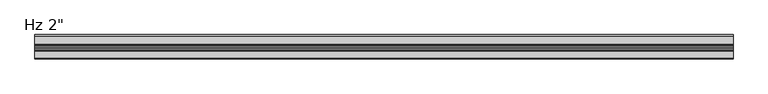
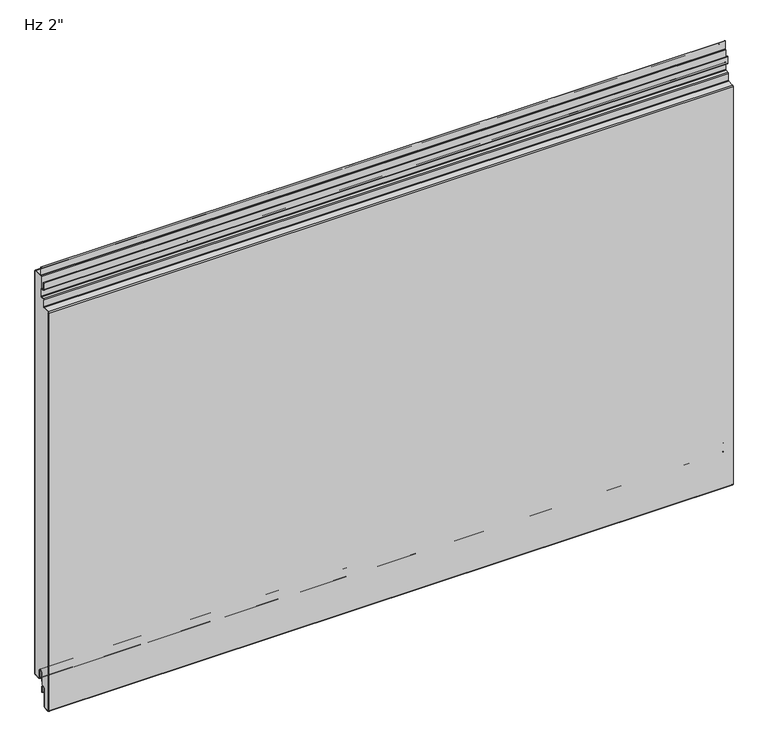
"""IFC4 building model written with IfcOpenShell, lengths in millimetres: plate geometry."""

from ifc_helpers import new_model, si_unit, point, frame, frame_2d, origin, place, context, project, spatial, polyline, circle_curve, ellipse_curve, trimmed, segment, composite_curve, outline, extrude, source, transform, mapped, element, save
from ifc_brep_helpers import plane_surface, cylinder_surface, revolved_surface, extruded_surface, advanced_brep


def plate_6fed119e(model_context):
    return source(origin(), model_context, "Body", "SolidModel", [
        extrude(outline(composite_curve([segment(polyline([(-22.8125, 869.3620957), (-22.8125, 912.60625), (-2.38125, 912.60625)]), True, "CONTINUOUS"), segment(trimmed(circle_curve(frame_2d((-2.38125, 911.225)), 1.38125), [point((-2.38125, 912.60625))], [point((-1.0, 911.225))], False, "CARTESIAN"), True, "CONTINUOUS"), segment(polyline([(-1.0, 911.225), (-1.0, 3.175)]), True, "CONTINUOUS"), segment(trimmed(circle_curve(frame_2d((-2.38125, 3.175)), 1.38125), [point((-1.0, 3.175))], [point((-2.38125, 1.79375))], False, "CARTESIAN"), True, "CONTINUOUS"), segment(polyline([(-2.38125, 1.79375), (-15.08125, 1.79375)]), True, "CONTINUOUS"), segment(trimmed(circle_curve(frame_2d((-15.08125, 3.175)), 1.38125), [point((-15.08125, 1.79375))], [point((-16.4625, 3.175))], False, "CARTESIAN"), True, "CONTINUOUS"), segment(polyline([(-16.4625, 3.175), (-16.4625, 19.05)]), True, "CONTINUOUS"), segment(trimmed(circle_curve(frame_2d((-21.43125, 19.05)), 4.96875), [point((-16.4625, 19.05))], [point((-26.4, 19.05))], True, "CARTESIAN"), True, "CONTINUOUS"), segment(polyline([(-26.4, 19.05), (-26.4, -6.9375), (-30.95625, -6.9375)]), True, "CONTINUOUS"), segment(trimmed(circle_curve(frame_2d((-30.95625, -11.90625)), 4.96875), [point((-30.95625, -6.9375))], [point((-35.925, -11.90625))], True, "CARTESIAN"), True, "CONTINUOUS"), segment(polyline([(-35.925, -11.90625), (-35.925, -50.0895546)]), True, "CONTINUOUS"), segment(trimmed(circle_curve(frame_2d((-37.30625, -50.0895546)), 1.38125), [point((-35.925, -50.0895546))], [point((-37.233961, -51.4689117))], False, "CARTESIAN"), True, "CONTINUOUS"), segment(polyline([(-37.233961, -51.4689117), (-48.346461, -52.0512931)]), True, "CONTINUOUS"), segment(trimmed(circle_curve(frame_2d((-48.41875, -50.6719361)), 1.38125), [point((-48.346461, -52.0512931))], [point((-49.8, -50.6719361))], False, "CARTESIAN"), True, "CONTINUOUS"), segment(polyline([(-49.8, -50.6719361), (-49.8, 846.2447607)]), True, "CONTINUOUS"), segment(trimmed(circle_curve(frame_2d((-48.41875, 846.2447607)), 1.38125), [point((-49.8, 846.2447607))], [point((-48.491039, 847.6241177))], False, "CARTESIAN"), True, "CONTINUOUS"), segment(polyline([(-48.491039, 847.6241177), (-34.7895807, 848.3421807)]), True, "CONTINUOUS"), segment(trimmed(circle_curve(frame_2d((-34.925, 850.9261347)), 2.5875), [point((-34.7895807, 848.3421807))], [point((-32.3375, 850.9261347))], True, "CARTESIAN"), True, "CONTINUOUS"), segment(polyline([(-32.3375, 850.9261347), (-32.3375, 865.0967085)]), True, "CONTINUOUS"), segment(trimmed(circle_curve(frame_2d((-30.95625, 865.0967085)), 1.38125), [point((-32.3375, 865.0967085))], [point((-31.028539, 866.4760655))], False, "CARTESIAN"), True, "CONTINUOUS"), segment(polyline([(-31.028539, 866.4760655), (-25.2645807, 866.7781418)]), True, "CONTINUOUS"), segment(trimmed(circle_curve(frame_2d((-25.4, 869.3620957)), 2.5875), [point((-25.2645807, 866.7781418))], [point((-22.8125, 869.3620957))], True, "CARTESIAN"), True, "CONTINUOUS")], self_intersect=False)), frame((-730.0, 0.0, 0.0), z_axis=(1.0, 0.0, 0.0), x_axis=(0.0, 1.0, 0.0)), (0.0, 0.0, 1.0), 1460.0),
        extrude(outline(composite_curve([segment(polyline([(-25.4, 0.79375), (-26.4, 0.79375), (-26.4, 19.05)]), True, "CONTINUOUS"), segment(trimmed(circle_curve(frame_2d((-21.43125, 19.05)), 4.96875), [point((-26.4, 19.05))], [point((-16.4625, 19.05))], False, "CARTESIAN"), True, "CONTINUOUS"), segment(polyline([(-16.4625, 19.05), (-16.4625, 3.175)]), True, "CONTINUOUS"), segment(trimmed(circle_curve(frame_2d((-15.08125, 3.175)), 1.38125), [point((-16.4625, 3.175))], [point((-15.08125, 1.79375))], True, "CARTESIAN"), True, "CONTINUOUS"), segment(polyline([(-15.08125, 1.79375), (-2.38125, 1.79375)]), True, "CONTINUOUS"), segment(trimmed(circle_curve(frame_2d((-2.38125, 3.175)), 1.38125), [point((-2.38125, 1.79375))], [point((-1.0, 3.175))], True, "CARTESIAN"), True, "CONTINUOUS"), segment(polyline([(-1.0, 3.175), (-1.0, 911.225)]), True, "CONTINUOUS"), segment(trimmed(circle_curve(frame_2d((-2.38125, 911.225)), 1.38125), [point((-1.0, 911.225))], [point((-2.38125, 912.60625))], True, "CARTESIAN"), True, "CONTINUOUS"), segment(polyline([(-2.38125, 912.60625), (-19.446875, 912.60625)]), True, "CONTINUOUS"), segment(trimmed(circle_curve(frame_2d((-19.446875, 915.19375)), 2.5875), [point((-19.446875, 912.60625))], [point((-22.034375, 915.19375))], False, "CARTESIAN"), True, "CONTINUOUS"), segment(polyline([(-22.034375, 915.19375), (-22.034375, 932.65625), (-21.034375, 932.65625), (-21.034375, 915.19375)]), True, "CONTINUOUS"), segment(trimmed(circle_curve(frame_2d((-19.446875, 915.19375)), 1.5875), [point((-21.034375, 915.19375))], [point((-19.446875, 913.60625))], True, "CARTESIAN"), True, "CONTINUOUS"), segment(polyline([(-19.446875, 913.60625), (-2.38125, 913.60625)]), True, "CONTINUOUS"), segment(trimmed(circle_curve(frame_2d((-2.38125, 911.225)), 2.38125), [point((-2.38125, 913.60625))], [point((0.0, 911.225))], False, "CARTESIAN"), True, "CONTINUOUS"), segment(polyline([(0.0, 911.225), (0.0, 3.175)]), True, "CONTINUOUS"), segment(trimmed(circle_curve(frame_2d((-2.38125, 3.175)), 2.38125), [point((0.0, 3.175))], [point((-2.38125, 0.79375))], False, "CARTESIAN"), True, "CONTINUOUS"), segment(polyline([(-2.38125, 0.79375), (-15.08125, 0.79375)]), True, "CONTINUOUS"), segment(trimmed(circle_curve(frame_2d((-15.08125, 3.175)), 2.38125), [point((-15.08125, 0.79375))], [point((-17.4625, 3.175))], False, "CARTESIAN"), True, "CONTINUOUS"), segment(polyline([(-17.4625, 3.175), (-17.4625, 19.05)]), True, "CONTINUOUS"), segment(trimmed(circle_curve(frame_2d((-21.43125, 19.05)), 3.96875), [point((-17.4625, 19.05))], [point((-25.4, 19.05))], True, "CARTESIAN"), True, "CONTINUOUS"), segment(polyline([(-25.4, 19.05), (-25.4, 0.79375)]), True, "CONTINUOUS")], self_intersect=False)), frame((-730.0, 0.0, 0.0), z_axis=(1.0, 0.0, 0.0), x_axis=(0.0, 1.0, 0.0)), (0.0, 0.0, 1.0), 1460.0),
        advanced_brep(
        [(-730.0, -25.4, -23.2314549), (-730.0, -26.9875, -23.2314549), (-730.0, -26.9875, -11.9205174), (-730.0, -34.925, -11.9205174), (-730.0, -34.925, -50.1038221), (-730.0, -37.181625, -52.4818086), (-730.0, -48.294125, -53.0641901), (-730.0, -50.8, -50.6862035), (-730.0, -50.8, 846.2447607), (-730.0, -48.543375, 848.6227473), (-730.0, -34.8419167, 849.3408103), (-730.0, -33.3375, 850.9261347), (-730.0, -33.3375, 865.0824411), (-730.0, -31.080875, 867.4604276), (-730.0, -25.3169167, 867.7625039), (-730.0, -23.8125, 869.3478283), (-730.0, -23.8125, 884.2232326), (-730.0, -25.4, 885.8107326), (-730.0, -29.5671875, 885.8107326), (-730.0, -31.9484375, 888.1919826), (-730.0, -31.9484375, 902.6836032), (-730.0, -30.1546875, 902.6836032), (-730.0, -30.1546875, 892.9544826), (-730.0, -30.9484375, 892.9544826), (-730.0, -30.9484375, 888.1919826), (-730.0, -29.5671875, 886.8107326), (-730.0, -25.4, 886.8107326), (-730.0, -22.8125, 884.2232326), (-730.0, -22.8125, 869.3478283), (-730.0, -25.2645807, 866.7638744), (-730.0, -31.028539, 866.4617981), (-730.0, -32.3375, 865.0824411), (-730.0, -32.3375, 850.9261347), (-730.0, -34.7895807, 848.3421807), (-730.0, -48.491039, 847.6241177), (-730.0, -49.8, 846.2447607), (-730.0, -49.8, -50.6862035), (-730.0, -48.346461, -52.0655606), (-730.0, -37.233961, -51.4831791), (-730.0, -35.925, -50.1038221), (-730.0, -35.925, -11.9205174), (-730.0, -25.9875, -11.9205174), (-730.0, -26.19375, -13.5080174), (-730.0, -25.4, -13.5080174), (730.0, -25.4, -23.2314549), (730.0, -25.4, -13.5080174), (730.0, -26.19375, -13.5080174), (730.0, -25.9875, -11.9205174), (730.0, -35.925, -11.9205174), (730.0, -35.925, -50.1038221), (730.0, -37.233961, -51.4831791), (730.0, -48.346461, -52.0655606), (730.0, -49.8, -50.6862035), (730.0, -49.8, 846.2447607), (730.0, -48.491039, 847.6241177), (730.0, -34.7895807, 848.3421807), (730.0, -32.3375, 850.9261347), (730.0, -32.3375, 865.0824411), (730.0, -31.028539, 866.4617981), (730.0, -25.2645807, 866.7638744), (730.0, -22.8125, 869.3478283), (730.0, -22.8125, 884.2232326), (730.0, -25.4, 886.8107326), (730.0, -29.5671875, 886.8107326), (730.0, -30.9484375, 888.1919826), (730.0, -30.9484375, 892.9544826), (730.0, -30.1546875, 892.9544826), (730.0, -30.1546875, 902.6836032), (730.0, -31.9484375, 902.6836032), (730.0, -31.9484375, 888.1919826), (730.0, -29.5671875, 885.8107326), (730.0, -25.4, 885.8107326), (730.0, -23.8125, 884.2232326), (730.0, -23.8125, 869.3478283), (730.0, -25.3169167, 867.7625039), (730.0, -31.080875, 867.4604276), (730.0, -33.3375, 865.0824411), (730.0, -33.3375, 850.9261347), (730.0, -34.8419167, 849.3408103), (730.0, -48.543375, 848.6227473), (730.0, -50.8, 846.2447607), (730.0, -50.8, -50.6862035), (730.0, -48.294125, -53.0641901), (730.0, -37.181625, -52.4818086), (730.0, -34.925, -50.1038221), (730.0, -34.925, -11.9205174), (730.0, -26.9875, -11.9205174), (730.0, -26.9875, -23.2314549)],
        [
            (0, 1, circle_curve(frame((-730.0, -26.19375, -23.2314549), z_axis=(-1.0, 0.0, 0.0), x_axis=(0.0, 0.0, -1.0)), 0.79375)),
            (1, 2),
            (2, 3, circle_curve(frame((-730.0, -30.95625, -11.9205174), z_axis=(1.0, 0.0, 0.0), x_axis=(0.0, 0.0, -1.0)), 3.96875)),
            (3, 4),
            (4, 5, circle_curve(frame((-730.0, -37.30625, -50.1038221), z_axis=(-1.0, 0.0, 0.0), x_axis=(0.0, 0.0, -1.0)), 2.38125)),
            (5, 6),
            (6, 7, circle_curve(frame((-730.0, -48.41875, -50.6862035), z_axis=(-1.0, 0.0, 0.0), x_axis=(0.0, 0.0, -1.0)), 2.38125)),
            (7, 8),
            (8, 9, circle_curve(frame((-730.0, -48.41875, 846.2447607), z_axis=(-1.0, 0.0, 0.0), x_axis=(0.0, 0.0, -1.0)), 2.38125)),
            (9, 10),
            (10, 11, circle_curve(frame((-730.0, -34.925, 850.9261347), z_axis=(1.0, 0.0, 0.0), x_axis=(0.0, 0.0, -1.0)), 1.5875)),
            (11, 12),
            (12, 13, circle_curve(frame((-730.0, -30.95625, 865.0824411), z_axis=(-1.0, 0.0, 0.0), x_axis=(0.0, 0.0, -1.0)), 2.38125)),
            (13, 14),
            (14, 15, circle_curve(frame((-730.0, -25.4, 869.3478283), z_axis=(1.0, 0.0, 0.0), x_axis=(0.0, 0.0, -1.0)), 1.5875)),
            (15, 16),
            (16, 17, circle_curve(frame((-730.0, -25.4, 884.2232326), z_axis=(1.0, 0.0, 0.0), x_axis=(0.0, 0.0, -1.0)), 1.5875)),
            (17, 18),
            (18, 19, circle_curve(frame((-730.0, -29.5671875, 888.1919826), z_axis=(-1.0, 0.0, 0.0), x_axis=(0.0, 0.0, -1.0)), 2.38125)),
            (19, 20),
            (20, 21, ellipse_curve(frame((-730.0, -31.0515625, 902.6836032), z_axis=(-1.0, 0.0, 0.0), x_axis=(0.0, 1.0, 0.0)), 0.896875, 0.7852275)),
            (21, 22),
            (22, 23),
            (23, 24),
            (24, 25, circle_curve(frame((-730.0, -29.5671875, 888.1919826), z_axis=(1.0, 0.0, 0.0), x_axis=(0.0, 0.0, -1.0)), 1.38125)),
            (25, 26),
            (26, 27, circle_curve(frame((-730.0, -25.4, 884.2232326), z_axis=(-1.0, 0.0, 0.0), x_axis=(0.0, 0.0, -1.0)), 2.5875)),
            (27, 28),
            (28, 29, circle_curve(frame((-730.0, -25.4, 869.3478283), z_axis=(-1.0, 0.0, 0.0), x_axis=(0.0, 0.0, -1.0)), 2.5875)),
            (29, 30),
            (30, 31, circle_curve(frame((-730.0, -30.95625, 865.0824411), z_axis=(1.0, 0.0, 0.0), x_axis=(0.0, 0.0, -1.0)), 1.38125)),
            (31, 32),
            (32, 33, circle_curve(frame((-730.0, -34.925, 850.9261347), z_axis=(-1.0, 0.0, 0.0), x_axis=(0.0, 0.0, -1.0)), 2.5875)),
            (33, 34),
            (34, 35, circle_curve(frame((-730.0, -48.41875, 846.2447607), z_axis=(1.0, 0.0, 0.0), x_axis=(0.0, 0.0, -1.0)), 1.38125)),
            (35, 36),
            (36, 37, circle_curve(frame((-730.0, -48.41875, -50.6862035), z_axis=(1.0, 0.0, 0.0), x_axis=(0.0, 0.0, -1.0)), 1.38125)),
            (37, 38),
            (38, 39, circle_curve(frame((-730.0, -37.30625, -50.1038221), z_axis=(1.0, 0.0, 0.0), x_axis=(0.0, 0.0, -1.0)), 1.38125)),
            (39, 40),
            (40, 41, circle_curve(frame((-730.0, -30.95625, -11.9205174), z_axis=(-1.0, 0.0, 0.0), x_axis=(0.0, 0.0, -1.0)), 4.96875)),
            (41, 42),
            (42, 43),
            (43, 0),
            (44, 45),
            (45, 46),
            (46, 47),
            (47, 48, circle_curve(frame((730.0, -30.95625, -11.9205174), z_axis=(1.0, 0.0, 0.0), x_axis=(0.0, 0.0, -1.0)), 4.96875)),
            (48, 49),
            (49, 50, circle_curve(frame((730.0, -37.30625, -50.1038221), z_axis=(-1.0, 0.0, 0.0), x_axis=(0.0, 0.0, -1.0)), 1.38125)),
            (50, 51),
            (51, 52, circle_curve(frame((730.0, -48.41875, -50.6862035), z_axis=(-1.0, 0.0, 0.0), x_axis=(0.0, 0.0, -1.0)), 1.38125)),
            (52, 53),
            (53, 54, circle_curve(frame((730.0, -48.41875, 846.2447607), z_axis=(-1.0, 0.0, 0.0), x_axis=(0.0, 0.0, -1.0)), 1.38125)),
            (54, 55),
            (55, 56, circle_curve(frame((730.0, -34.925, 850.9261347), z_axis=(1.0, 0.0, 0.0), x_axis=(0.0, 0.0, -1.0)), 2.5875)),
            (56, 57),
            (57, 58, circle_curve(frame((730.0, -30.95625, 865.0824411), z_axis=(-1.0, 0.0, 0.0), x_axis=(0.0, 0.0, -1.0)), 1.38125)),
            (58, 59),
            (59, 60, circle_curve(frame((730.0, -25.4, 869.3478283), z_axis=(1.0, 0.0, 0.0), x_axis=(0.0, 0.0, -1.0)), 2.5875)),
            (60, 61),
            (61, 62, circle_curve(frame((730.0, -25.4, 884.2232326), z_axis=(1.0, 0.0, 0.0), x_axis=(0.0, 0.0, -1.0)), 2.5875)),
            (62, 63),
            (63, 64, circle_curve(frame((730.0, -29.5671875, 888.1919826), z_axis=(-1.0, 0.0, 0.0), x_axis=(0.0, 0.0, -1.0)), 1.38125)),
            (64, 65),
            (65, 66),
            (66, 67),
            (67, 68, ellipse_curve(frame((730.0, -31.0515625, 902.6836032), z_axis=(1.0, 0.0, 0.0), x_axis=(0.0, 1.0, 0.0)), 0.896875, 0.7852275)),
            (68, 69),
            (69, 70, circle_curve(frame((730.0, -29.5671875, 888.1919826), z_axis=(1.0, 0.0, 0.0), x_axis=(0.0, 0.0, -1.0)), 2.38125)),
            (70, 71),
            (71, 72, circle_curve(frame((730.0, -25.4, 884.2232326), z_axis=(-1.0, 0.0, 0.0), x_axis=(0.0, 0.0, -1.0)), 1.5875)),
            (72, 73),
            (73, 74, circle_curve(frame((730.0, -25.4, 869.3478283), z_axis=(-1.0, 0.0, 0.0), x_axis=(0.0, 0.0, -1.0)), 1.5875)),
            (74, 75),
            (75, 76, circle_curve(frame((730.0, -30.95625, 865.0824411), z_axis=(1.0, 0.0, 0.0), x_axis=(0.0, 0.0, -1.0)), 2.38125)),
            (76, 77),
            (77, 78, circle_curve(frame((730.0, -34.925, 850.9261347), z_axis=(-1.0, 0.0, 0.0), x_axis=(0.0, 0.0, -1.0)), 1.5875)),
            (78, 79),
            (79, 80, circle_curve(frame((730.0, -48.41875, 846.2447607), z_axis=(1.0, 0.0, 0.0), x_axis=(0.0, 0.0, -1.0)), 2.38125)),
            (80, 81),
            (81, 82, circle_curve(frame((730.0, -48.41875, -50.6862035), z_axis=(1.0, 0.0, 0.0), x_axis=(0.0, 0.0, -1.0)), 2.38125)),
            (82, 83),
            (83, 84, circle_curve(frame((730.0, -37.30625, -50.1038221), z_axis=(1.0, 0.0, 0.0), x_axis=(0.0, 0.0, -1.0)), 2.38125)),
            (84, 85),
            (85, 86, circle_curve(frame((730.0, -30.95625, -11.9205174), z_axis=(-1.0, 0.0, 0.0), x_axis=(0.0, 0.0, -1.0)), 3.96875)),
            (86, 87),
            (87, 44, circle_curve(frame((730.0, -26.19375, -23.2314549), z_axis=(1.0, 0.0, 0.0), x_axis=(0.0, 0.0, -1.0)), 0.79375)),
            (36, 52),
            (51, 37),
            (50, 38),
            (49, 39),
            (48, 40),
            (47, 41),
            (42, 46),
            (45, 43),
            (22, 66),
            (65, 23),
            (21, 67),
            (20, 68),
            (34, 54),
            (53, 35),
            (32, 56),
            (55, 33),
            (30, 58),
            (57, 31),
            (28, 60),
            (59, 29),
            (24, 64),
            (63, 25),
            (26, 62),
            (61, 27),
            (19, 69),
            (17, 71),
            (70, 18),
            (15, 73),
            (72, 16),
            (13, 75),
            (74, 14),
            (11, 77),
            (76, 12),
            (9, 79),
            (78, 10),
            (7, 81),
            (80, 8),
            (5, 83),
            (82, 6),
            (3, 85),
            (84, 4),
            (1, 87),
            (86, 2),
            (44, 0),
        ],
        [
            plane_surface(frame((-730.0, -50.8, 457.2), z_axis=(-1.0, 0.0, 0.0), x_axis=(0.0, -1.0, 0.0))),
            plane_surface(frame((730.0, -50.8, 457.2), z_axis=(1.0, 0.0, 0.0), x_axis=(0.0, -1.0, 0.0))),
            revolved_surface(polyline([(730.0, -48.41875, -52.0674535), (-730.0, -48.41875, -52.0674535)]), (-730.0, -48.41875, -50.6862035), (1.0, 0.0, 0.0)),
            plane_surface(frame((-730.0, -37.233961, -51.4831791), z_axis=(0.0, -0.05233595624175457, 0.9986295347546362), x_axis=(1.0, 0.0, 0.0))),
            revolved_surface(polyline([(730.0, -37.30625, -51.485072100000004), (-730.0, -37.30625, -51.485072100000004)]), (-730.0, -37.30625, -50.1038221), (1.0, 0.0, 0.0)),
            plane_surface(frame((-730.0, -35.925, -11.9205174), z_axis=(0.0, -1.0, 0.0), x_axis=(1.0, 0.0, 0.0))),
            cylinder_surface(frame((-730.0, -30.95625, -11.9205174), z_axis=(-1.0, 0.0, 0.0), x_axis=(0.0, 0.0, -1.0)), 4.96875),
            plane_surface(frame((-730.0, -25.4, -13.5080174), z_axis=(0.0, 0.0, 1.0), x_axis=(1.0, 0.0, 0.0))),
            plane_surface(frame((-730.0, -26.19375, -13.5080174), z_axis=(0.0, 0.9916655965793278, -0.12883844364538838), x_axis=(1.0, 0.0, 0.0))),
            plane_surface(frame((-730.0, -30.9484375, 892.9544826), z_axis=(0.0, 0.0, -1.0), x_axis=(1.0, 0.0, 0.0))),
            plane_surface(frame((-730.0, -30.1546875, 892.9544826), z_axis=(0.0, 1.0, 0.0), x_axis=(1.0, 0.0, 0.0))),
            extruded_surface(trimmed(ellipse_curve(frame((-730.0, -31.0515625, 902.6836032), z_axis=(1.0, 0.0, 0.0), x_axis=(0.0, 1.0, 0.0)), 0.896875, 0.7852275), [point((-730.0, -30.1546875, 902.6836032))], [point((-730.0, -31.9484375, 902.6836032))], True, "CARTESIAN"), (1460.0, 0.0, 0.0), 1460.0),
            revolved_surface(polyline([(730.0, -48.41875, 844.8635107), (-730.0, -48.41875, 844.8635107)]), (-730.0, -48.41875, 846.2447607), (1.0, 0.0, 0.0)),
            cylinder_surface(frame((-730.0, -34.925, 850.9261347), z_axis=(-1.0, 0.0, 0.0), x_axis=(0.0, 0.0, -1.0)), 2.5875),
            plane_surface(frame((-730.0, -48.491039, 847.6241177), z_axis=(0.0, 0.05233595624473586, -0.99862953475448), x_axis=(1.0, 0.0, 0.0))),
            plane_surface(frame((-730.0, -49.8, -50.6862035), z_axis=(0.0, 1.0, 0.0), x_axis=(1.0, 0.0, 0.0))),
            revolved_surface(polyline([(730.0, -30.95625, 863.7011911), (-730.0, -30.95625, 863.7011911)]), (-730.0, -30.95625, 865.0824411), (1.0, 0.0, 0.0)),
            cylinder_surface(frame((-730.0, -25.4, 869.3478283), z_axis=(-1.0, 0.0, 0.0), x_axis=(0.0, 0.0, -1.0)), 2.5875),
            plane_surface(frame((-730.0, -31.028539, 866.4617981), z_axis=(0.0, 0.05233595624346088, -0.9986295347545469), x_axis=(1.0, 0.0, 0.0))),
            plane_surface(frame((-730.0, -32.3375, 850.9261347), z_axis=(0.0, 1.0, 0.0), x_axis=(1.0, 0.0, 0.0))),
            revolved_surface(polyline([(730.0, -29.5671875, 886.8107325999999), (-730.0, -29.5671875, 886.8107325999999)]), (-730.0, -29.5671875, 888.1919826), (1.0, 0.0, 0.0)),
            cylinder_surface(frame((-730.0, -25.4, 884.2232326), z_axis=(-1.0, 0.0, 0.0), x_axis=(0.0, 0.0, -1.0)), 2.5875),
            plane_surface(frame((-730.0, -25.4, 886.8107326), z_axis=(0.0, 0.0, 1.0), x_axis=(1.0, 0.0, 0.0))),
            plane_surface(frame((-730.0, -30.9484375, 888.1919826), z_axis=(0.0, 1.0, 0.0), x_axis=(1.0, 0.0, 0.0))),
            plane_surface(frame((-730.0, -31.9484375, 902.6836032), z_axis=(0.0, -1.0, 0.0), x_axis=(1.0, 0.0, 0.0))),
            plane_surface(frame((-730.0, -29.5671875, 885.8107326), z_axis=(0.0, 0.0, -1.0), x_axis=(1.0, 0.0, 0.0))),
            cylinder_surface(frame((-730.0, -29.5671875, 888.1919826), z_axis=(-1.0, 0.0, 0.0), x_axis=(0.0, 0.0, -1.0)), 2.38125),
            plane_surface(frame((-730.0, -22.8125, 869.3478283), z_axis=(0.0, 1.0, 0.0), x_axis=(1.0, 0.0, 0.0))),
            plane_surface(frame((-730.0, -23.8125, 884.2232326), z_axis=(0.0, -1.0, 0.0), x_axis=(1.0, 0.0, 0.0))),
            plane_surface(frame((-730.0, -25.3169167, 867.7625039), z_axis=(0.0, -0.05233595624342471, 0.9986295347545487), x_axis=(1.0, 0.0, 0.0))),
            revolved_surface(polyline([(730.0, -25.4, 867.7603283), (-730.0, -25.4, 867.7603283)]), (-730.0, -25.4, 869.3478283), (1.0, 0.0, 0.0)),
            revolved_surface(polyline([(730.0, -25.4, 882.6357326), (-730.0, -25.4, 882.6357326)]), (-730.0, -25.4, 884.2232326), (1.0, 0.0, 0.0)),
            plane_surface(frame((-730.0, -33.3375, 865.0824411), z_axis=(0.0, -1.0, 0.0), x_axis=(1.0, 0.0, 0.0))),
            plane_surface(frame((-730.0, -34.8419167, 849.3408103), z_axis=(0.0, -0.052335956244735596, 0.99862953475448), x_axis=(1.0, 0.0, 0.0))),
            revolved_surface(polyline([(730.0, -34.925, 849.3386347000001), (-730.0, -34.925, 849.3386347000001)]), (-730.0, -34.925, 850.9261347), (1.0, 0.0, 0.0)),
            cylinder_surface(frame((-730.0, -30.95625, 865.0824411), z_axis=(-1.0, 0.0, 0.0), x_axis=(0.0, 0.0, -1.0)), 2.38125),
            plane_surface(frame((-730.0, -50.8, 846.2447607), z_axis=(0.0, -1.0, 0.0), x_axis=(1.0, 0.0, 0.0))),
            plane_surface(frame((-730.0, -48.294125, -53.0641901), z_axis=(0.0, 0.05233595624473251, -0.9986295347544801), x_axis=(1.0, 0.0, 0.0))),
            cylinder_surface(frame((-730.0, -48.41875, -50.6862035), z_axis=(-1.0, 0.0, 0.0), x_axis=(0.0, 0.0, -1.0)), 2.38125),
            cylinder_surface(frame((-730.0, -48.41875, 846.2447607), z_axis=(-1.0, 0.0, 0.0), x_axis=(0.0, 0.0, -1.0)), 2.38125),
            plane_surface(frame((-730.0, -34.925, -50.1038221), z_axis=(0.0, 1.0, 0.0), x_axis=(1.0, 0.0, 0.0))),
            plane_surface(frame((-730.0, -26.9875, -11.9205174), z_axis=(0.0, -1.0, 0.0), x_axis=(1.0, 0.0, 0.0))),
            revolved_surface(polyline([(730.0, -30.95625, -15.8892674), (-730.0, -30.95625, -15.8892674)]), (-730.0, -30.95625, -11.9205174), (1.0, 0.0, 0.0)),
            cylinder_surface(frame((-730.0, -37.30625, -50.1038221), z_axis=(-1.0, 0.0, 0.0), x_axis=(0.0, 0.0, -1.0)), 2.38125),
            plane_surface(frame((-730.0, -25.4, -23.2314549), z_axis=(0.0, 1.0, 0.0), x_axis=(1.0, 0.0, 0.0))),
            cylinder_surface(frame((-730.0, -26.19375, -23.2314549), z_axis=(-1.0, 0.0, 0.0), x_axis=(0.0, 0.0, -1.0)), 0.79375),
        ],
        [
            (0, [[1, 2, 3, 4, 5, 6, 7, 8, 9, 10, 11, 12, 13, 14, 15, 16, 17, 18, 19, 20, 21, 22, 23, 24, 25, 26, 27, 28, 29, 30, 31, 32, 33, 34, 35, 36, 37, 38, 39, 40, 41, 42, 43, 44]]),
            (1, [[45, 46, 47, 48, 49, 50, 51, 52, 53, 54, 55, 56, 57, 58, 59, 60, 61, 62, 63, 64, 65, 66, 67, 68, 69, 70, 71, 72, 73, 74, 75, 76, 77, 78, 79, 80, 81, 82, 83, 84, 85, 86, 87, 88]]),
            (2, [[89, -52, 90, -37]]),
            (3, [[-90, -51, 91, -38]]),
            (4, [[-91, -50, 92, -39]]),
            (5, [[-92, -49, 93, -40]]),
            (6, [[-93, -48, 94, -41]]),
            (7, [[95, -46, 96, -43]]),
            (8, [[-94, -47, -95, -42]]),
            (9, [[97, -66, 98, -23]]),
            (10, [[99, -67, -97, -22]]),
            (11, [[100, -68, -99, -21]]),
            (12, [[101, -54, 102, -35]]),
            (13, [[103, -56, 104, -33]]),
            (14, [[-104, -55, -101, -34]]),
            (15, [[-102, -53, -89, -36]]),
            (16, [[105, -58, 106, -31]]),
            (17, [[107, -60, 108, -29]]),
            (18, [[-108, -59, -105, -30]]),
            (19, [[-106, -57, -103, -32]]),
            (20, [[109, -64, 110, -25]]),
            (21, [[111, -62, 112, -27]]),
            (22, [[-110, -63, -111, -26]]),
            (23, [[-98, -65, -109, -24]]),
            (24, [[113, -69, -100, -20]]),
            (25, [[114, -71, 115, -18]]),
            (26, [[-115, -70, -113, -19]]),
            (27, [[-112, -61, -107, -28]]),
            (28, [[116, -73, 117, -16]]),
            (29, [[118, -75, 119, -14]]),
            (30, [[-119, -74, -116, -15]]),
            (31, [[-117, -72, -114, -17]]),
            (32, [[120, -77, 121, -12]]),
            (33, [[122, -79, 123, -10]]),
            (34, [[-123, -78, -120, -11]]),
            (35, [[-121, -76, -118, -13]]),
            (36, [[124, -81, 125, -8]]),
            (37, [[126, -83, 127, -6]]),
            (38, [[-127, -82, -124, -7]]),
            (39, [[-125, -80, -122, -9]]),
            (40, [[128, -85, 129, -4]]),
            (41, [[130, -87, 131, -2]]),
            (42, [[-131, -86, -128, -3]]),
            (43, [[-129, -84, -126, -5]]),
            (44, [[-96, -45, 132, -44]]),
            (45, [[-132, -88, -130, -1]]),
        ],
    ),
    ])


if __name__ == "__main__":
    model = new_model("IFC4")
    model_context = context("Model", 3, world=origin())
    ifc_project = project(units=[si_unit("LENGTHUNIT", "METRE", prefix="MILLI")], contexts=[model_context])
    site = spatial("IfcSite", under=ifc_project)
    building = spatial("IfcBuilding", under=site)
    placement = place(None, origin())
    plate_shape = plate_6fed119e(model_context)
    element("IfcPlate", 1, ObjectType="KIP-36-DWHR-R19-CP-Hz-F : Hz 2\"", at=placement, inside=building, context=model_context, shape_type="MappedRepresentation", body=[
        mapped(plate_shape, transform((0.0, 0.0, 0.0), x_axis=(1.0, 0.0, 0.0), y_axis=(0.0, 1.0, 0.0), z_axis=(0.0, 0.0, 1.0))),
    ])
    save(model, "model.ifc")
